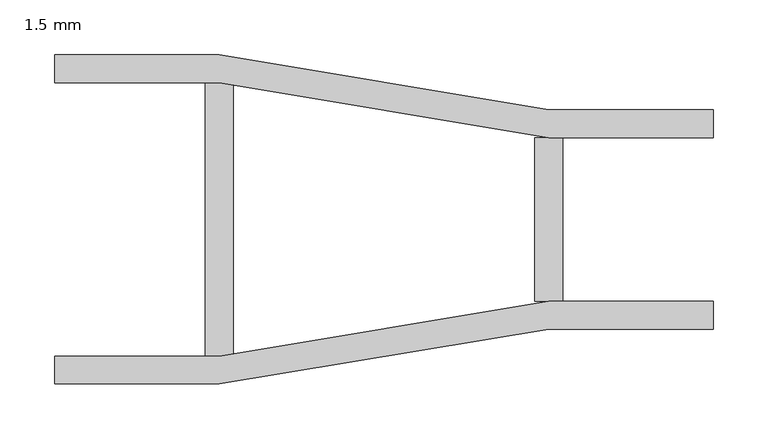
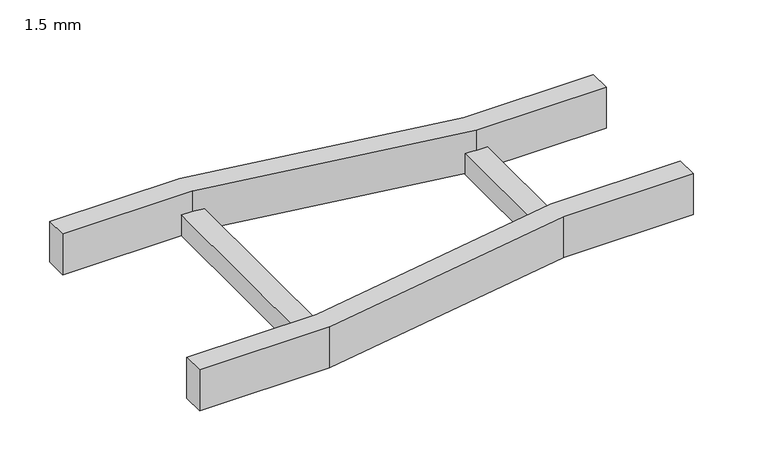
"""IFC4 building model written with IfcOpenShell, lengths in millimetres: cable carrier fitting geometry, BAKS_Redukcja_drabiny : 1.5 mm."""

from ifc_helpers import new_model, si_unit, frame, origin, place, context, project, spatial, polyline, outline, extrude, source, transform, mapped, element, save


def cable_carrier_fitting_1_5_mm_dfeaff0d(model_context):
    return source(origin(), model_context, "Body", "SweptSolid", [
        extrude(outline(polyline([(0.0, -150.0), (0.0, -124.6), (150.0, -124.6), (450.0, -74.6), (600.0, -74.6), (600.0, -100.0), (450.0, -100.0), (150.0, -150.0), (0.0, -150.0)])), frame((0.0, 0.0, -25.0), z_axis=(0.0, 0.0, 1.0), x_axis=(1.0, 0.0, 0.0)), (0.0, 0.0, 1.0), 50.0),
        extrude(outline(polyline([(0.0, 124.6), (0.0, 150.0), (150.0, 150.0), (450.0, 100.0), (600.0, 100.0), (600.0, 74.6), (450.0, 74.6), (150.0, 124.6), (0.0, 124.6)])), frame((0.0, 0.0, -25.0), z_axis=(0.0, 0.0, 1.0), x_axis=(1.0, 0.0, 0.0)), (0.0, 0.0, 1.0), 50.0),
        extrude(outline(polyline([(437.3, 74.6), (462.7, 74.6), (462.7, -74.6), (437.3, -74.6), (437.3, 74.6)])), frame((0.0, 0.0, -25.0), z_axis=(0.0, 0.0, 1.0), x_axis=(1.0, 0.0, 0.0)), (0.0, 0.0, 1.0), 25.4),
        extrude(outline(polyline([(137.3, 124.6), (162.7, 124.6), (162.7, -124.6), (137.3, -124.6), (137.3, 124.6)])), frame((0.0, 0.0, -25.0), z_axis=(0.0, 0.0, 1.0), x_axis=(1.0, 0.0, 0.0)), (0.0, 0.0, 1.0), 25.4),
    ])


if __name__ == "__main__":
    model = new_model("IFC4")
    model_context = context("Model", 3, world=origin())
    ifc_project = project(units=[si_unit("LENGTHUNIT", "METRE", prefix="MILLI")], contexts=[model_context])
    site = spatial("IfcSite", under=ifc_project)
    building = spatial("IfcBuilding", under=site)
    placement = place(None, origin())
    cable_carrier_fitting_1_5_mm_shape = cable_carrier_fitting_1_5_mm_dfeaff0d(model_context)
    element("IfcCableCarrierFitting", 1, ObjectType="BAKS_Redukcja_drabiny : 1.5 mm", at=placement, inside=building, context=model_context, shape_type="MappedRepresentation", body=[
        mapped(cable_carrier_fitting_1_5_mm_shape, transform((0.0, 0.0, 0.0), x_axis=(1.0, 0.0, 0.0), y_axis=(0.0, 1.0, 0.0), z_axis=(0.0, 0.0, 1.0))),
    ])
    save(model, "model.ifc")
